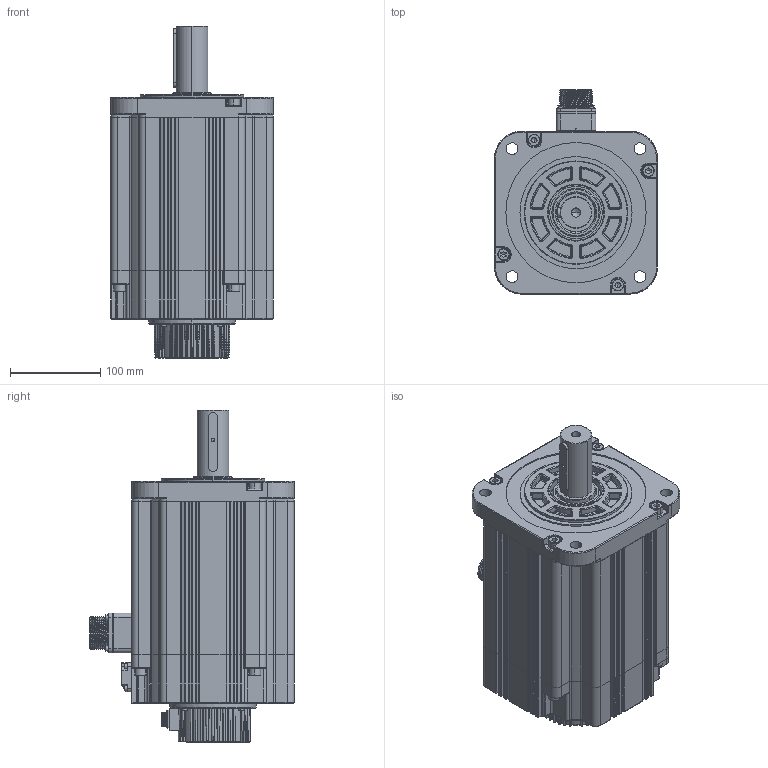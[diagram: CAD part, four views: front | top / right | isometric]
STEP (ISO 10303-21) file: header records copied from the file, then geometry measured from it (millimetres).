
FILE_DESCRIPTION (( 'STEP AP214' ), '1' );
FILE_NAME ('106.5酗沺郋 湍价陬.STEP', '2021-10-26T03:12:54', ( '' ), ( '' ), 'SwSTEP 2.0', 'SolidWorks 2014', '' );
FILE_SCHEMA (( 'AUTOMOTIVE_DESIGN' ));
Length unit declared in the file: millimetre
Products named in the file (20): 180粣-47沺郋; 180瑤諾脣芛 (湍价陬ㄘ; 埴芛囀鞠褒 ISO 4762 M3 x 30 --- 18N; SC晤鎢ん欶200908_10郋; SC180ヶ傷裔1009; 埴芛囀鞠褒 ISO 4762 M3 x 10 --- 10N; SC180#綴傷裔蹟隊熬傻-201020; 106.5酗沺郋 湍价陬; 180#陔隅赽201019; SCSC瑤諾脣芛 16M-9H; 埴芛囀鞠褒 ISO 4762 M6 x 20 --- 20N; 綴傷裔-111; 埴芛囀鞠褒 ISO 4762 M8 x 30 --- 30N; 坋趼攫芛蹟佪 M2X8-8  H type-N; 180瑤脣釱; 埴芛囀鞠褒 ISO 4762 M3 x 8 --- 8N; 价陬揤盄裔200912; 180儂褲169.5; SC蚐猾 D00B999YF8-TC 44-62-10; す瑩^180#陔萇儂-拸价陬 201021
Assembly tree (41 placements, depth 3):
  106.5酗沺郋 湍价陬
    180#陔隅赽201019
      SC180ヶ傷裔1009
    SC晤鎢ん欶200908_10郋
    SCSC瑤諾脣芛 16M-9H
    SC蚐猾 D00B999YF8-TC 44-62-10
    坋趼攫芛蹟佪 M2X8-8  H type-N  x4
    埴芛囀鞠褒 ISO 4762 M3 x 10 --- 10N  x4
    埴芛囀鞠褒 ISO 4762 M8 x 30 --- 30N  x9
    埴芛囀鞠褒 ISO 4762 M3 x 30 --- 18N  x4
    180粣-47沺郋
    す瑩^180#陔萇儂-拸价陬 201021
    綴傷裔-111
      SC180#綴傷裔蹟隊熬傻-201020
    价陬揤盄裔200912
    埴芛囀鞠褒 ISO 4762 M3 x 8 --- 8N  x4
    埴芛囀鞠褒 ISO 4762 M6 x 20 --- 20N  x3
    180瑤脣釱
    180瑤諾脣芛 (湍价陬ㄘ
    180儂褲169.5
Bounding box: 180 x 226.3 x 367 mm (x, y, z)
Volume: 2333448 mm3; surface area: 623008.9 mm2
Topology: 40 solids, 40 shells, 3738 faces, 9104 edges, 5320 vertices
Faces by surface type: cylinder 1280, plane 1018, torus 489, bspline 479, cone 290, sphere 182
Entity records: 149793 total; most frequent: CARTESIAN_POINT 45701, ORIENTED_EDGE 15070, DIRECTION 15009, EDGE_CURVE 7535, AXIS2_PLACEMENT_3D 6145, VERTEX_POINT 4529, EDGE_LOOP 3378, CIRCLE 3346
